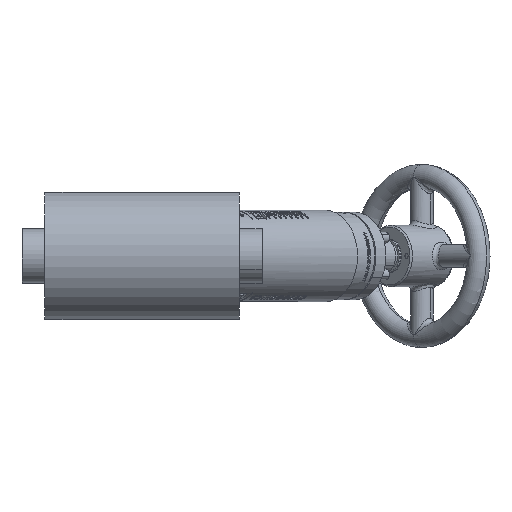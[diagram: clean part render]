
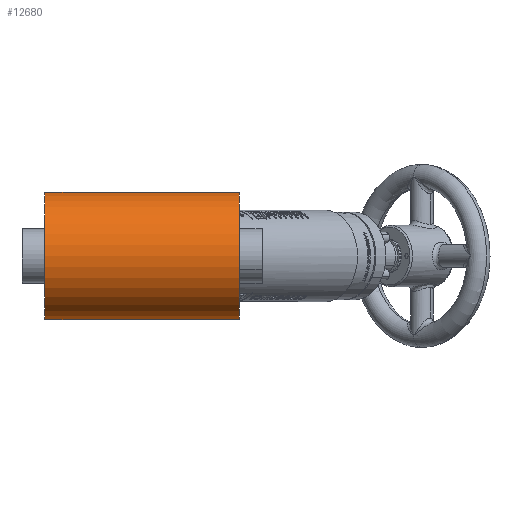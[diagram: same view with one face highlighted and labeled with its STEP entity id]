
A CAD part, front view. The second image highlights one B-rep face of the part: STEP entity #12680.
In plain terms, the highlighted cylindrical face has radius 70.65 mm (diameter 141.3 mm), a partial arc.
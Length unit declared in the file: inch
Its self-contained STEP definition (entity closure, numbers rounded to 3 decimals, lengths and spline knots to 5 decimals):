
#505 = CARTESIAN_POINT ( 'NONE',  ( -2.31, 0., 0. ) ) ;
#4170 = CYLINDRICAL_SURFACE ( 'NONE', #27215, 2.7815 ) ;
#5865 = CARTESIAN_POINT ( 'NONE',  ( -2.31, 0., 2.7815 ) ) ;
#6437 = EDGE_CURVE ( 'NONE', #84212, #25616, #33342, .T. ) ;
#12680 = ADVANCED_FACE ( 'NONE', ( #71152 ), #4170, .T. ) ;
#14406 = DIRECTION ( 'NONE',  ( -1., 0., 0. ) ) ;
#17063 = LINE ( 'NONE', #48313, #69056 ) ;
#20828 = LINE ( 'NONE', #81416, #65182 ) ;
#23882 = EDGE_LOOP ( 'NONE', ( #42352, #82390, #33077, #24800 ) ) ;
#24800 = ORIENTED_EDGE ( 'NONE', *, *, #64203, .F. ) ;
#25616 = VERTEX_POINT ( 'NONE', #66031 ) ;
#27215 = AXIS2_PLACEMENT_3D ( 'NONE', #33967, #63810, #54562 ) ;
#33077 = ORIENTED_EDGE ( 'NONE', *, *, #49117, .T. ) ;
#33342 = CIRCLE ( 'NONE', #44288, 2.7815 ) ;
#33967 = CARTESIAN_POINT ( 'NONE',  ( 14.05727, 0., 0. ) ) ;
#34954 = VERTEX_POINT ( 'NONE', #5865 ) ;
#42249 = EDGE_CURVE ( 'NONE', #25616, #87875, #17063, .T. ) ;
#42352 = ORIENTED_EDGE ( 'NONE', *, *, #42249, .F. ) ;
#44288 = AXIS2_PLACEMENT_3D ( 'NONE', #83852, #92625, #85303 ) ;
#48313 = CARTESIAN_POINT ( 'NONE',  ( 14.05727, 0., -2.7815 ) ) ;
#49117 = EDGE_CURVE ( 'NONE', #84212, #34954, #20828, .T. ) ;
#50897 = DIRECTION ( 'NONE',  ( -1., 0., 0. ) ) ;
#54562 = DIRECTION ( 'NONE',  ( 0., 0., 1. ) ) ;
#59645 = DIRECTION ( 'NONE',  ( 0., 0., 1. ) ) ;
#63810 = DIRECTION ( 'NONE',  ( -1., 0., 0. ) ) ;
#64203 = EDGE_CURVE ( 'NONE', #87875, #34954, #89835, .T. ) ;
#65182 = VECTOR ( 'NONE', #14406, 39.37008 ) ;
#66031 = CARTESIAN_POINT ( 'NONE',  ( 6.19, 0., -2.7815 ) ) ;
#69056 = VECTOR ( 'NONE', #78161, 39.37008 ) ;
#71152 = FACE_OUTER_BOUND ( 'NONE', #23882, .T. ) ;
#75722 = AXIS2_PLACEMENT_3D ( 'NONE', #505, #50897, #59645 ) ;
#76988 = CARTESIAN_POINT ( 'NONE',  ( -2.31, 0., -2.7815 ) ) ;
#78161 = DIRECTION ( 'NONE',  ( -1., 0., 0. ) ) ;
#81416 = CARTESIAN_POINT ( 'NONE',  ( 14.05727, 0., 2.7815 ) ) ;
#81682 = CARTESIAN_POINT ( 'NONE',  ( 6.19, 0., 2.7815 ) ) ;
#82390 = ORIENTED_EDGE ( 'NONE', *, *, #6437, .F. ) ;
#83852 = CARTESIAN_POINT ( 'NONE',  ( 6.19, 0., 0. ) ) ;
#84212 = VERTEX_POINT ( 'NONE', #81682 ) ;
#85303 = DIRECTION ( 'NONE',  ( 0., 0., 1. ) ) ;
#87875 = VERTEX_POINT ( 'NONE', #76988 ) ;
#89835 = CIRCLE ( 'NONE', #75722, 2.7815 ) ;
#92625 = DIRECTION ( 'NONE',  ( 1., 0., 0. ) ) ;
